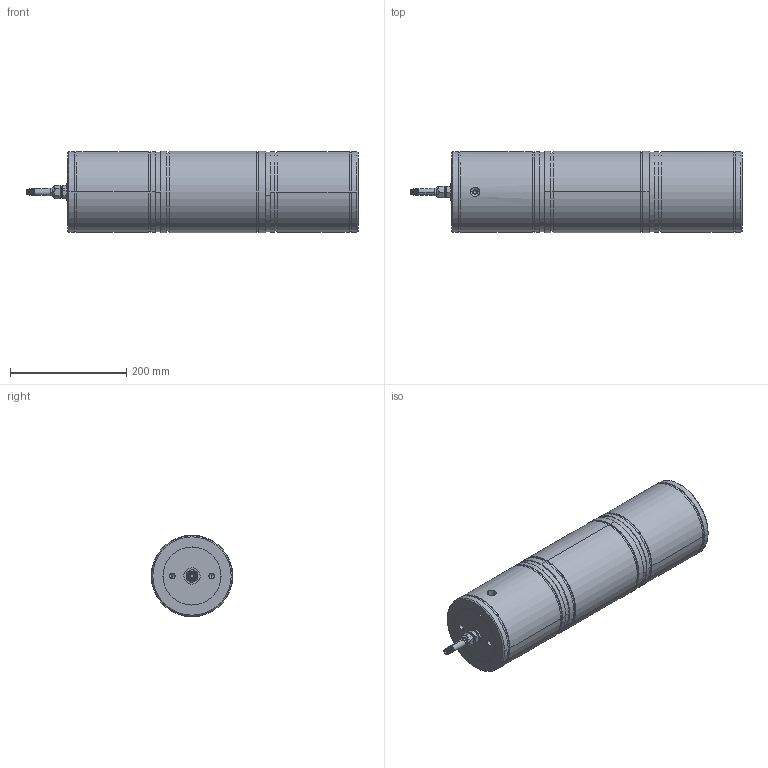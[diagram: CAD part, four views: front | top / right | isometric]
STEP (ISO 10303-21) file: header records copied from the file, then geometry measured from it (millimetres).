
FILE_DESCRIPTION (( 'STEP AP214' ), '1' );
FILE_NAME ('KISD-6R 1000 kN Load Cell.STEP', '2021-06-30T13:32:36', ( '' ), ( '' ), 'SwSTEP 2.0', 'SolidWorks 2021', '' );
FILE_SCHEMA (( 'AUTOMOTIVE_DESIGN' ));
Length unit declared in the file: millimetre
Products named in the file (7): 300066r1; 400255r0; Pg9 - 1009.52 6_2_14; Silicone^110111 - KISD-6R 1000kN Rostfri; M26x1.5 - Pg9 - 6369829; KISD-6R 1000 kN Load Cell; Wiberger-frp_A2_8x16
Assembly tree (9 placements, depth 2):
  KISD-6R 1000 kN Load Cell
    300066r1
    400255r0  x2
    M26x1.5 - Pg9 - 6369829
    Pg9 - 1009.52 6_2_14
    Wiberger-frp_A2_8x16  x2
    Silicone^110111 - KISD-6R 1000kN Rostfri  x2
Bounding box: 572 x 140 x 140 mm (x, y, z)
Volume: 7402625.9 mm3; surface area: 510862.9 mm2
Topology: 9 solids, 12 shells, 328 faces, 740 edges, 458 vertices
Faces by surface type: cylinder 145, cone 79, plane 74, bspline 16, torus 14
Entity records: 12847 total; most frequent: CARTESIAN_POINT 6122, DIRECTION 1298, ORIENTED_EDGE 1214, EDGE_CURVE 607, AXIS2_PLACEMENT_3D 551, VERTEX_POINT 383, EDGE_LOOP 316, CIRCLE 284
